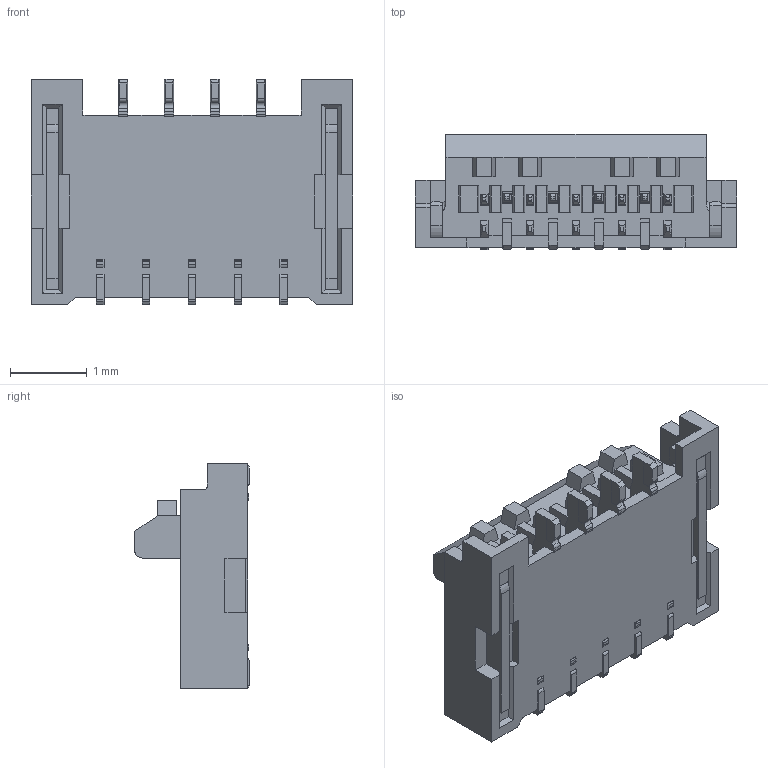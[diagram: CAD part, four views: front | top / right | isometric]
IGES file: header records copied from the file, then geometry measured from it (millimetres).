
Start section: SolidWorks IGES file using analytic representation for surfaces
Global section: file name: _exported\20613-009E-02C MINIFLEX 3-BFNH ACT OPEN IGES R6 ALL.IGS; native system: SolidWorks 2023; preprocessor: SolidWorks 2023; author: E1480; date: 240912.155503; units: millimetre
Bounding box: 4.2 x 1.5 x 2.95 mm (x, y, z)
Surface area: 48.5 mm2 (no closed solid volume)
Topology: 0 solids, 0 shells, 520 faces, 3114 edges, 3114 vertices
Faces by surface type: bspline 426, revolution 94
